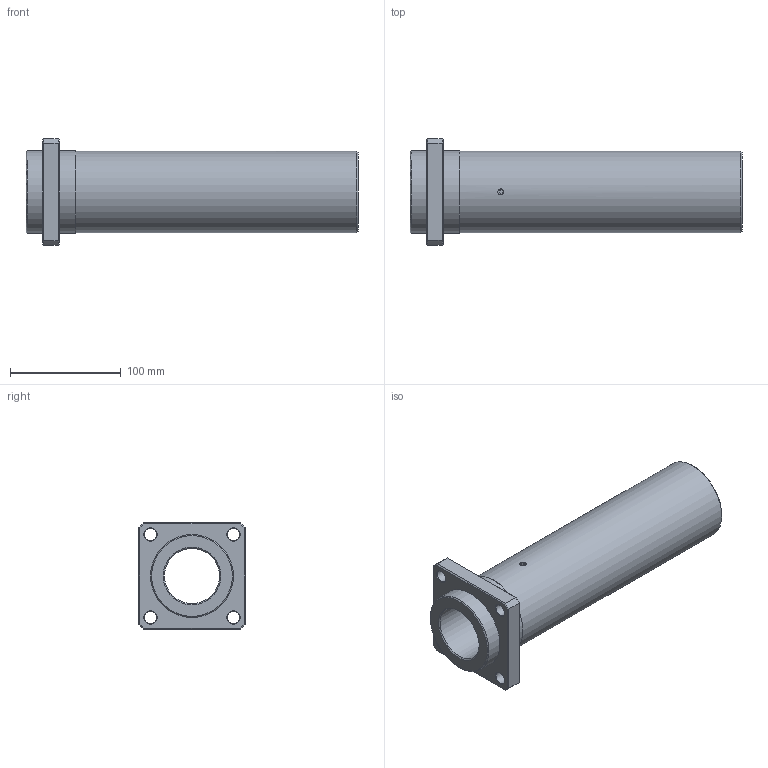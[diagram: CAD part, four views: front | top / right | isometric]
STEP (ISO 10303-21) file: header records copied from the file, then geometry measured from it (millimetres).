
FILE_DESCRIPTION(('STEP AP203'),'1');
FILE_NAME('//192.168.1.1/share/s-4 技術開発/s-4-14_個人別フォルダ/橋詰/09_CAD_DATA/3D/HP用/3Ｄモデル/LCF/LCF-BL/LCF-50BLUU.step','2021-12-09T05:15:03',(' '),(' '),'Spatial InterOp 3D',' ',' ');
FILE_SCHEMA(('CONFIG_CONTROL_DESIGN'));
Length unit declared in the file: millimetre
Products named in the file (2): 1; 2
Bounding box: 300 x 96 x 96 mm (x, y, z)
Volume: 771240.8 mm3; surface area: 134092.3 mm2
Topology: 2 solids, 2 shells, 62 faces, 143 edges, 86 vertices
Faces by surface type: plane 25, cone 23, cylinder 14
Full cylindrical faces by diameter (mm): 5.25 x1, 6 x1, 11 x4, 50 x1, 74 x1, 75 x2
Entity records: 1774 total; most frequent: CARTESIAN_POINT 424, DIRECTION 266, ORIENTED_EDGE 216, AXIS2_PLACEMENT_3D 112, EDGE_CURVE 108, EDGE_LOOP 102, VERTEX_POINT 78, FACE_OUTER_BOUND 72
